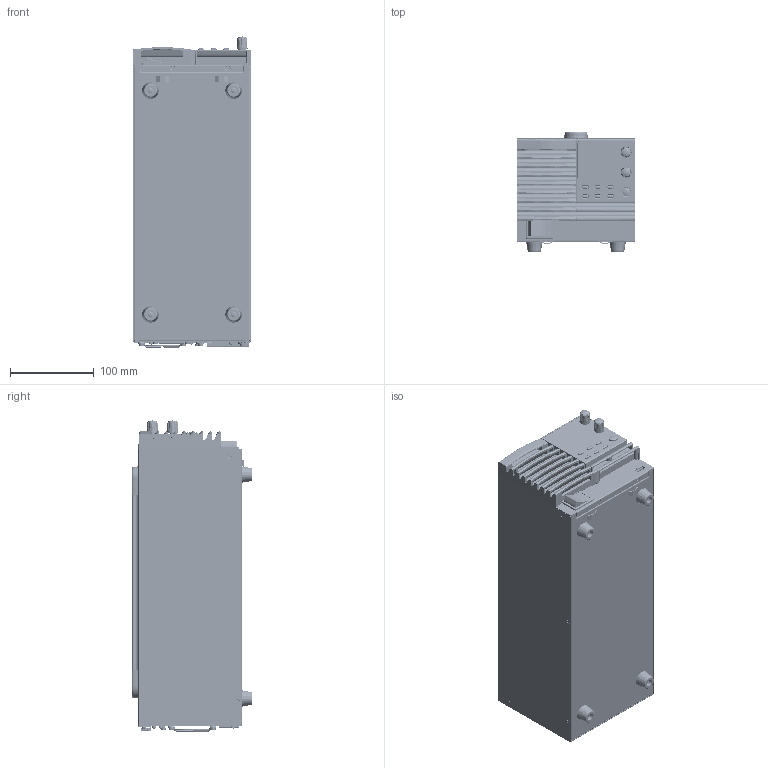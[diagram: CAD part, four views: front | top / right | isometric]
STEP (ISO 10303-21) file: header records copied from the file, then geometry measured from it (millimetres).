
FILE_DESCRIPTION((''),'2;1');
FILE_NAME('ASM0023_ASM','2020-02-20T17:14:56',('shane_wang'),(''),'CREO PARAMETRIC BY PTC INC, 2019080','CREO PARAMETRIC BY PTC INC, 2019080','');
FILE_SCHEMA(('CONFIG_CONTROL_DESIGN'));
Products named in the file (116): PSW_ASM_SKEL_231_1_1_2_3_4_5__2; 63FP-AG107501_391_1_1_2_3_4___2; INSERT-CU_10_1_1_2_3_4_5_6_7__2; 63FP-AG107501_ASM_46_ASM_1_1__2_ASM; 62SW-080FP201_116_1_1_2_3_4_5_2; PSW-F-PCB_107_1_1_2_3_4_5_6___2; TACT_SWITCH_TC002_8_1_1_2_3___2; DISPLAY_14_1_1_2_3_4_5_6_7_8__2; ENCODE_SW_L25-ALPS_8_1_2_1_1__7; LED-6X4_DIP_5_1_1_2_3_4_5_6___2; BOARD-IN-CONNECTOR-8PIN_17_1_22; PSW-F-PCB_ASM_ASM_102_ASM_1___2_ASM; 63KE-XG2001A1_268_1_2_1_1_2_3_2; 5005-130G0101_32_1_2_1_1_2_3__2; 51SW-30080101_96_1_1_2_3_4_5__2; 51SW-804002A1_122_1_1_1_2_3_4_2; 57RG-30B00101_33_1_1_2_3_4_5__1; 66CN-04650001_15_1_1_2_3_4_5__1; PSW-F1_ASM_ASM_478_ASM_1_1_2__2_ASM; 63FP-AG1076A1_85_1_1_2_3_4_5__2; 57RG-30B00201_33_1_1_2_3_4_5__1; PSW-F2_ASM_ASM_56_ASM_1_1_2___2_ASM; 62SW-720FP1A1_333_1_1_2_3_4_5_2; 62SW-720FP1A1_ASM_12_ASM_1_1__2_ASM; POWER_SW_AJ8R1013_28_1_1_2_3__2; PSW-FP2_ASM_ASM_35_ASM_1_1_2__2_ASM; BMS-3X6_12_1_2_1_1_2_3_4_5_1_1; BMS-W-3X6_11_1_2_3_4_5_1_1_2__2; 62SW-720LO1A1_261_1_1_2_3_4_5_2; BSO-M3X55_10_1_1_2_3_4_5_6_7__2; FH-M4-15_3_1_1_2_3_4_5_6_7_8__2; 62SW-720LO1A1_ASM_88_ASM_1_1__2_ASM; 57IL-28F08901_35_1_1_2_3_4_5__1; 3P-AC-INLET_3_1_2_1_1_2_3_4_5_2; USB2_7_1_2_1_1_2_3_4_5_6_1_1; RJ-45_16_1_2_1_1_2_3_4_5_1_1; BOARD-SOCKET-30_11_1_1_2_3_4__2; BOARD-SOCKET-10_9_1_1_2_3_4_5_2; BOARD-SOCKET-20_11_1_1_2_3_4__1; BOARD-SOCKET-14_16_1_1_2_3_4__2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
Assembly tree (249 placements, depth 9):
  ASM0023_ASM
    ASM0019_ASM_1_1_ASM
      PSW-HIGH-VOLTAGE-M2_ASM_ASM_A_8_ASM
        PSW-HIGH-VOLTAGE-M2_ASM_ASM_1_8_ASM
          PSW_ASM_SKEL_231_1_1_2_3_4_5__2
          PSW-F1_ASM_ASM_478_ASM_1_1_2__2_ASM
            63FP-AG107501_ASM_46_ASM_1_1__2_ASM
              63FP-AG107501_391_1_1_2_3_4___2
              INSERT-CU_10_1_1_2_3_4_5_6_7__2  x2
            62SW-080FP201_116_1_1_2_3_4_5_2
            PSW-F-PCB_ASM_ASM_102_ASM_1___2_ASM
              PSW-F-PCB_107_1_1_2_3_4_5_6___2
              TACT_SWITCH_TC002_8_1_1_2_3___2  x7
              DISPLAY_14_1_1_2_3_4_5_6_7_8__2  x8
              ENCODE_SW_L25-ALPS_8_1_2_1_1__7  x2
              LED-6X4_DIP_5_1_1_2_3_4_5_6___2  x17
              BOARD-IN-CONNECTOR-8PIN_17_1_22
            63KE-XG2001A1_268_1_2_1_1_2_3_2
            5005-130G0101_32_1_2_1_1_2_3__2  x2
            51SW-30080101_96_1_1_2_3_4_5__2
            51SW-804002A1_122_1_1_1_2_3_4_2
            57RG-30B00101_33_1_1_2_3_4_5__1
            66CN-04650001_15_1_1_2_3_4_5__1
          PSW-F2_ASM_ASM_56_ASM_1_1_2___2_ASM
            63FP-AG1076A1_85_1_1_2_3_4_5__2
            57RG-30B00201_33_1_1_2_3_4_5__1
          PSW-FP2_ASM_ASM_35_ASM_1_1_2__2_ASM
            62SW-720FP1A1_ASM_12_ASM_1_1__2_ASM
              62SW-720FP1A1_333_1_1_2_3_4_5_2
            POWER_SW_AJ8R1013_28_1_1_2_3__2
          BMS-3X6_12_1_2_1_1_2_3_4_5_1_1
          BMS-W-3X6_11_1_2_3_4_5_1_1_2__2
          PSW-HIGH-VOLTAGE-LO-M2_ASM_AS_8_ASM
            62SW-720LO1A1_ASM_88_ASM_1_1__2_ASM
              62SW-720LO1A1_261_1_1_2_3_4_5_2
              BSO-M3X55_10_1_1_2_3_4_5_6_7__2  x12
              FH-M4-15_3_1_1_2_3_4_5_6_7_8__2
            57IL-28F08901_35_1_1_2_3_4_5__1
            PSW-MAINPCB2_ASM_ASM_87_ASM__11_ASM
              3P-AC-INLET_3_1_2_1_1_2_3_4_5_2
              USB2_7_1_2_1_1_2_3_4_5_6_1_1
              RJ-45_16_1_2_1_1_2_3_4_5_1_1
              BOARD-SOCKET-30_11_1_1_2_3_4__2  x2
              BOARD-SOCKET-10_9_1_1_2_3_4_5_2  x6
              BOARD-SOCKET-20_11_1_1_2_3_4__1  x2
              BOARD-SOCKET-14_16_1_1_2_3_4__2  x2
              62SW-080HP1A1_32_1_1_2_3_4_5__1
              62SW-080ST101-JH-4A_8_1_1_2___2  x2
            BMS-LOCK-3X4_9_1_2_3_4_1_1_2__2  x12
            57FC-10B0100_GL-4L-B_3_1_1_2__2  x4
            BMS-W-3X10_11_1_2_1_1_2_3_4_5_2  x4
            PSW-HIGH-VOLTAGE-AG-PCB-M_AS__2_ASM
              DOUBLE-ROW-SOCKETS_ASM_ASM_1_28_ASM
                BOX-TYPE-PLUGS-26PIN_1_1_1_2__2
              USB_7_1_2_1_1_2_3_4_5_1_1
              62SW-080HP501_22_1_1_2_3_4_5__2
              WAFER-14PIN_10_1_1_2_3_4_5_6__1
              15R-JE_1_1_1_2_3_4_5_6_1_1
              19R-JE_1_1_1_2_3_4_5_6_1_1  x2
              9R-JE_1_1_1_2_3_4_5_6_1_1
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Bounding box: 141.8 x 144.2 x 372.35 mm (x, y, z)
Volume: 564841.2 mm3; surface area: 838487.5 mm2
Topology: 244 solids, 248 shells, 16337 faces, 41305 edges, 26460 vertices
Faces by surface type: plane 11480, cylinder 3100, cone 858, bspline 421, torus 242, sphere 236
Entity records: 313401 total; most frequent: CARTESIAN_POINT 77338, ORIENTED_EDGE 48475, DIRECTION 48172, EDGE_CURVE 24285, VECTOR 17730, LINE 17730, VERTEX_POINT 15547, AXIS2_PLACEMENT_3D 15221
